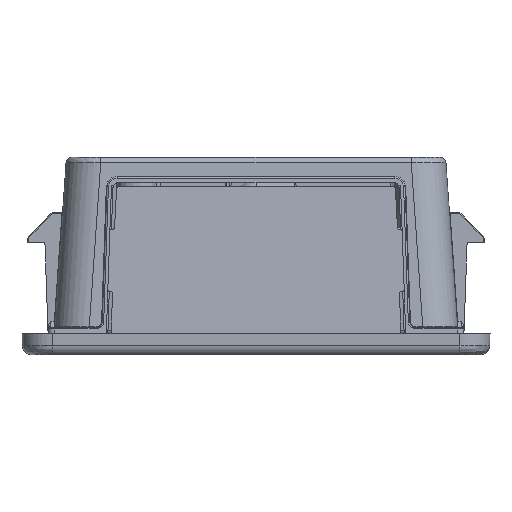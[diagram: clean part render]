
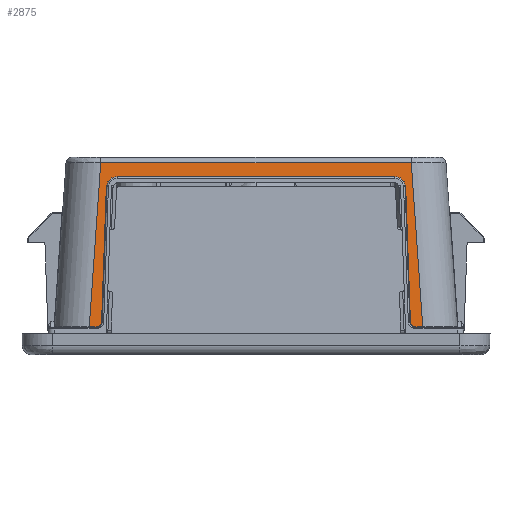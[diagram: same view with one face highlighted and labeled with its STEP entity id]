
A CAD part, front view. The second image highlights one B-rep face of the part: STEP entity #2875.
In plain terms, the highlighted planar face has unit normal (0, -0.998, 0.07).
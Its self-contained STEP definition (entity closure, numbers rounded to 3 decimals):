
#2875=ADVANCED_FACE('',(#46379),#46381,.T.);
#46379=FACE_BOUND('',#46380,.T.);
#46380=EDGE_LOOP('',(#63158,#63159,#63160,#63161,#63162,#63163,#63164,#63165,#63166,
#63167,#63168,#63169));
#46381=PLANE('',#46382);
#46382=AXIS2_PLACEMENT_3D('',#46383,#46384,#46385);
#46383=CARTESIAN_POINT('',(66.75,-85.,0.));
#46384=DIRECTION('',(0.,-0.998,0.07));
#46385=DIRECTION('',(1.,0.,0.));
#63158=ORIENTED_EDGE('',*,*,#71319,.F.);
#63159=ORIENTED_EDGE('',*,*,#71356,.F.);
#63160=ORIENTED_EDGE('',*,*,#71357,.F.);
#63161=ORIENTED_EDGE('',*,*,#71358,.F.);
#63162=ORIENTED_EDGE('',*,*,#71359,.F.);
#63163=ORIENTED_EDGE('',*,*,#71360,.F.);
#63164=ORIENTED_EDGE('',*,*,#71361,.F.);
#63165=ORIENTED_EDGE('',*,*,#71362,.F.);
#63166=ORIENTED_EDGE('',*,*,#71363,.F.);
#63167=ORIENTED_EDGE('',*,*,#71364,.F.);
#63168=ORIENTED_EDGE('',*,*,#71365,.F.);
#63169=ORIENTED_EDGE('',*,*,#71353,.F.);
#71319=EDGE_CURVE('',#83258,#83255,#83260,.T.);
#71353=EDGE_CURVE('',#83255,#83310,#83311,.T.);
#71356=EDGE_CURVE('',#83315,#83258,#83316,.T.);
#71357=EDGE_CURVE('',#83317,#83315,#83318,.T.);
#71358=EDGE_CURVE('',#83319,#83317,#83320,.T.);
#71359=EDGE_CURVE('',#83321,#83319,#83322,.T.);
#71360=EDGE_CURVE('',#83323,#83321,#83324,.T.);
#71361=EDGE_CURVE('',#83325,#83323,#83326,.T.);
#71362=EDGE_CURVE('',#83327,#83325,#83328,.T.);
#71363=EDGE_CURVE('',#83329,#83327,#83330,.T.);
#71364=EDGE_CURVE('',#83331,#83329,#83332,.T.);
#71365=EDGE_CURVE('',#83310,#83331,#83333,.T.);
#83255=VERTEX_POINT('',#175144);
#83258=VERTEX_POINT('',#175178);
#83260=LINE('',#175183,#175184);
#83310=VERTEX_POINT('',#175458);
#83311=LINE('',#175459,#175460);
#83315=VERTEX_POINT('',#175495);
#83316=LINE('',#175496,#175497);
#83317=VERTEX_POINT('',#175499);
#83318=LINE('',#175500,#175501);
#83319=VERTEX_POINT('',#175503);
#83320=B_SPLINE_CURVE_WITH_KNOTS('',3,
(#175504,#175505,#175506,#175507,#175508,#175509,#175510,#175511,#175512,#175513,
#175514,#175515,#175516,#175517,#175518,#175519,#175520,#175521,#175522,#175523,
#175524,#175525,#175526,#175527,#175528,#175529,#175530,#175531),
.UNSPECIFIED.,.F.,.F.,
(4,2,2,2,2,2,2,2,2,2,2,2,2,4),
(0.,0.082,0.164,0.245,0.327,0.409,
0.491,0.573,0.655,0.736,0.818,
0.9,0.982,1.),
.UNSPECIFIED.);
#83321=VERTEX_POINT('',#175532);
#83322=LINE('',#175533,#175534);
#83323=VERTEX_POINT('',#175536);
#83324=CIRCLE('',#175537,3.7);
#83325=VERTEX_POINT('',#175541);
#83326=LINE('',#175542,#175543);
#83327=VERTEX_POINT('',#175545);
#83328=CIRCLE('',#175546,3.7);
#83329=VERTEX_POINT('',#175550);
#83330=LINE('',#175551,#175552);
#83331=VERTEX_POINT('',#175554);
#83332=B_SPLINE_CURVE_WITH_KNOTS('',3,
(#175555,#175556,#175557,#175558,#175559,#175560,#175561,#175562,#175563,#175564,
#175565,#175566,#175567,#175568,#175569,#175570,#175571,#175572,#175573,#175574,
#175575,#175576,#175577,#175578,#175579,#175580,#175581,#175582),
.UNSPECIFIED.,.F.,.F.,
(4,2,2,2,2,2,2,2,2,2,2,2,2,4),
(0.,0.082,0.164,0.245,0.327,0.409,
0.491,0.573,0.655,0.736,0.818,
0.9,0.982,1.),
.UNSPECIFIED.);
#83333=LINE('',#175583,#175584);
#175144=CARTESIAN_POINT('',(51.331,-81.053,56.44));
#175178=CARTESIAN_POINT('',(-51.331,-81.053,56.44));
#175183=CARTESIAN_POINT('',(-51.331,-81.053,56.44));
#175184=VECTOR('',#175185,1.);
#175185=DIRECTION('',(1.,0.,0.));
#175458=CARTESIAN_POINT('',(55.125,-84.847,2.186));
#175459=CARTESIAN_POINT('',(51.331,-81.053,56.44));
#175460=VECTOR('',#175461,1.);
#175461=DIRECTION('',(0.07,-0.07,-0.995));
#175495=CARTESIAN_POINT('',(-55.125,-84.847,2.186));
#175496=CARTESIAN_POINT('',(-55.125,-84.847,2.186));
#175497=VECTOR('',#175498,1.);
#175498=DIRECTION('',(0.07,0.07,0.995));
#175499=CARTESIAN_POINT('',(-52.857,-84.847,2.186));
#175500=CARTESIAN_POINT('',(-52.857,-84.847,2.186));
#175501=VECTOR('',#175502,1.);
#175502=DIRECTION('',(-1.,0.,0.));
#175503=CARTESIAN_POINT('',(-51.058,-84.726,3.923));
#175504=CARTESIAN_POINT('',(-51.058,-84.726,3.923));
#175505=CARTESIAN_POINT('',(-51.063,-84.731,3.848));
#175506=CARTESIAN_POINT('',(-51.068,-84.736,3.773));
#175507=CARTESIAN_POINT('',(-51.092,-84.747,3.624));
#175508=CARTESIAN_POINT('',(-51.109,-84.752,3.55));
#175509=CARTESIAN_POINT('',(-51.151,-84.762,3.406));
#175510=CARTESIAN_POINT('',(-51.177,-84.767,3.334));
#175511=CARTESIAN_POINT('',(-51.238,-84.776,3.197));
#175512=CARTESIAN_POINT('',(-51.272,-84.781,3.129));
#175513=CARTESIAN_POINT('',(-51.349,-84.79,3.));
#175514=CARTESIAN_POINT('',(-51.392,-84.795,2.937));
#175515=CARTESIAN_POINT('',(-51.485,-84.803,2.819));
#175516=CARTESIAN_POINT('',(-51.535,-84.807,2.762));
#175517=CARTESIAN_POINT('',(-51.642,-84.814,2.656));
#175518=CARTESIAN_POINT('',(-51.699,-84.818,2.606));
#175519=CARTESIAN_POINT('',(-51.818,-84.824,2.514));
#175520=CARTESIAN_POINT('',(-51.881,-84.827,2.472));
#175521=CARTESIAN_POINT('',(-52.011,-84.832,2.396));
#175522=CARTESIAN_POINT('',(-52.079,-84.835,2.361));
#175523=CARTESIAN_POINT('',(-52.217,-84.839,2.302));
#175524=CARTESIAN_POINT('',(-52.289,-84.841,2.277));
#175525=CARTESIAN_POINT('',(-52.433,-84.844,2.235));
#175526=CARTESIAN_POINT('',(-52.507,-84.845,2.219));
#175527=CARTESIAN_POINT('',(-52.656,-84.846,2.196));
#175528=CARTESIAN_POINT('',(-52.731,-84.847,2.189));
#175529=CARTESIAN_POINT('',(-52.823,-84.847,2.186));
#175530=CARTESIAN_POINT('',(-52.84,-84.847,2.186));
#175531=CARTESIAN_POINT('',(-52.857,-84.847,2.186));
#175532=CARTESIAN_POINT('',(-49.502,-81.618,48.371));
#175533=CARTESIAN_POINT('',(-49.502,-81.618,48.371));
#175534=VECTOR('',#175535,1.);
#175535=DIRECTION('',(-0.035,-0.07,-0.997));
#175536=CARTESIAN_POINT('',(-45.804,-81.368,51.934));
#175537=AXIS2_PLACEMENT_3D('',#175538,#175539,#175540);
#175538=CARTESIAN_POINT('',(-45.804,-81.627,48.243));
#175539=DIRECTION('',(0.,-0.998,0.07));
#175540=DIRECTION('',(0.,0.07,0.998));
#175541=CARTESIAN_POINT('',(45.804,-81.368,51.934));
#175542=CARTESIAN_POINT('',(45.804,-81.368,51.934));
#175543=VECTOR('',#175544,1.);
#175544=DIRECTION('',(-1.,0.,0.));
#175545=CARTESIAN_POINT('',(49.502,-81.618,48.371));
#175546=AXIS2_PLACEMENT_3D('',#175547,#175548,#175549);
#175547=CARTESIAN_POINT('',(45.804,-81.627,48.243));
#175548=DIRECTION('',(0.,-0.998,0.07));
#175549=DIRECTION('',(0.999,0.002,0.035));
#175550=CARTESIAN_POINT('',(51.058,-84.726,3.923));
#175551=CARTESIAN_POINT('',(51.058,-84.726,3.923));
#175552=VECTOR('',#175553,1.);
#175553=DIRECTION('',(-0.035,0.07,0.997));
#175554=CARTESIAN_POINT('',(52.857,-84.847,2.186));
#175555=CARTESIAN_POINT('',(52.857,-84.847,2.186));
#175556=CARTESIAN_POINT('',(52.782,-84.847,2.188));
#175557=CARTESIAN_POINT('',(52.706,-84.847,2.191));
#175558=CARTESIAN_POINT('',(52.557,-84.845,2.21));
#175559=CARTESIAN_POINT('',(52.482,-84.844,2.224));
#175560=CARTESIAN_POINT('',(52.337,-84.842,2.261));
#175561=CARTESIAN_POINT('',(52.264,-84.84,2.285));
#175562=CARTESIAN_POINT('',(52.125,-84.836,2.34));
#175563=CARTESIAN_POINT('',(52.056,-84.834,2.372));
#175564=CARTESIAN_POINT('',(51.924,-84.829,2.445));
#175565=CARTESIAN_POINT('',(51.86,-84.826,2.486));
#175566=CARTESIAN_POINT('',(51.738,-84.82,2.574));
#175567=CARTESIAN_POINT('',(51.68,-84.817,2.622));
#175568=CARTESIAN_POINT('',(51.57,-84.809,2.725));
#175569=CARTESIAN_POINT('',(51.518,-84.806,2.781));
#175570=CARTESIAN_POINT('',(51.422,-84.797,2.897));
#175571=CARTESIAN_POINT('',(51.377,-84.793,2.958));
#175572=CARTESIAN_POINT('',(51.297,-84.784,3.085));
#175573=CARTESIAN_POINT('',(51.26,-84.78,3.152));
#175574=CARTESIAN_POINT('',(51.196,-84.77,3.288));
#175575=CARTESIAN_POINT('',(51.168,-84.765,3.358));
#175576=CARTESIAN_POINT('',(51.122,-84.755,3.501));
#175577=CARTESIAN_POINT('',(51.103,-84.75,3.575));
#175578=CARTESIAN_POINT('',(51.075,-84.74,3.723));
#175579=CARTESIAN_POINT('',(51.065,-84.734,3.798));
#175580=CARTESIAN_POINT('',(51.059,-84.728,3.89));
#175581=CARTESIAN_POINT('',(51.059,-84.727,3.907));
#175582=CARTESIAN_POINT('',(51.058,-84.726,3.923));
#175583=CARTESIAN_POINT('',(55.125,-84.847,2.186));
#175584=VECTOR('',#175585,1.);
#175585=DIRECTION('',(-1.,0.,0.));
